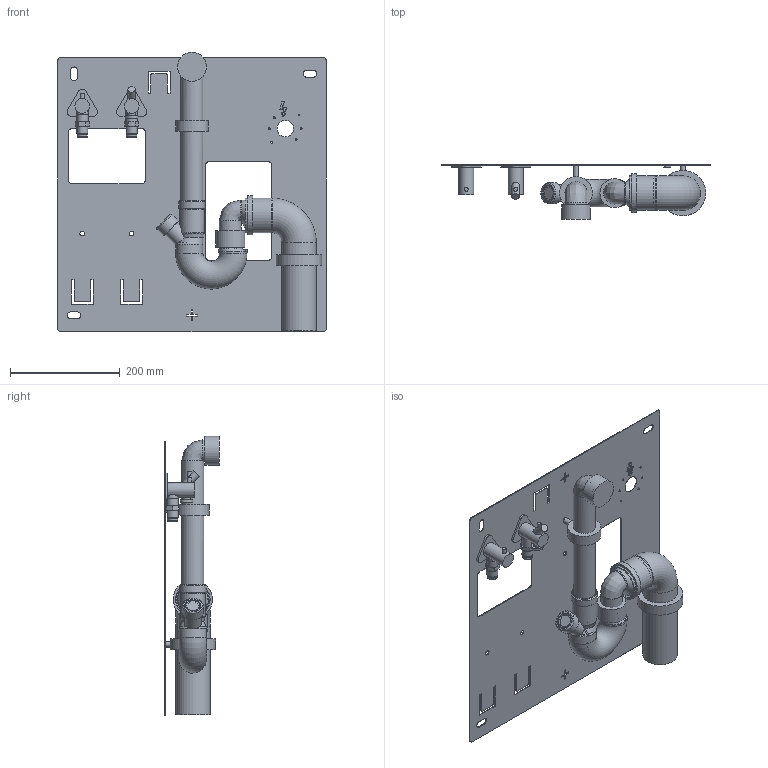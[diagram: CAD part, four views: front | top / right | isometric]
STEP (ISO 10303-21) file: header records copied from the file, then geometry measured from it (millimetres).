
FILE_DESCRIPTION(('STEP AP214'),'1');
FILE_NAME('NYFFix_7910L.STP','2025-09-02T08:34:23',(' '),(' '),'Spatial InterOp 3D',' ',' ');
FILE_SCHEMA(('AUTOMOTIVE_DESIGN { 1 0 10303 214 1 1 1 1 }'));
Length unit declared in the file: millimetre
Products named in the file (1): Torus
Bounding box: 490 x 100 x 509.28 mm (x, y, z)
Volume: 1021454.8 mm3; surface area: 830649 mm2
Topology: 27 solids, 27 shells, 473 faces, 1182 edges, 765 vertices
Faces by surface type: plane 210, cylinder 206, cone 23, torus 19, bspline 15
Full cylindrical faces by diameter (mm): 3 x6, 5.1 x6, 7 x2, 8.5 x5, 10 x2, 13.867 x1, 14 x1, 17 x2, 19 x2, 20 x2, 20.956 x1, 21 x2, 22 x1, 22.622 x1, 26.818 x2, 30 x2, 30.2 x2, 33.249 x2, 36 x3, 36.1 x2, 38 x1, 39 x1, 40 x5, 40.1 x2, 40.5 x1, 40.625 x1, 44.5 x6, 46 x2, 48 x2, 48.318 x1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
Entity records: 16756 total; most frequent: CARTESIAN_POINT 4159, DIRECTION 2347, ORIENTED_EDGE 2036, EDGE_CURVE 1018, AXIS2_PLACEMENT_3D 942, VERTEX_POINT 732, EDGE_LOOP 684, ADVANCED_FACE 473
